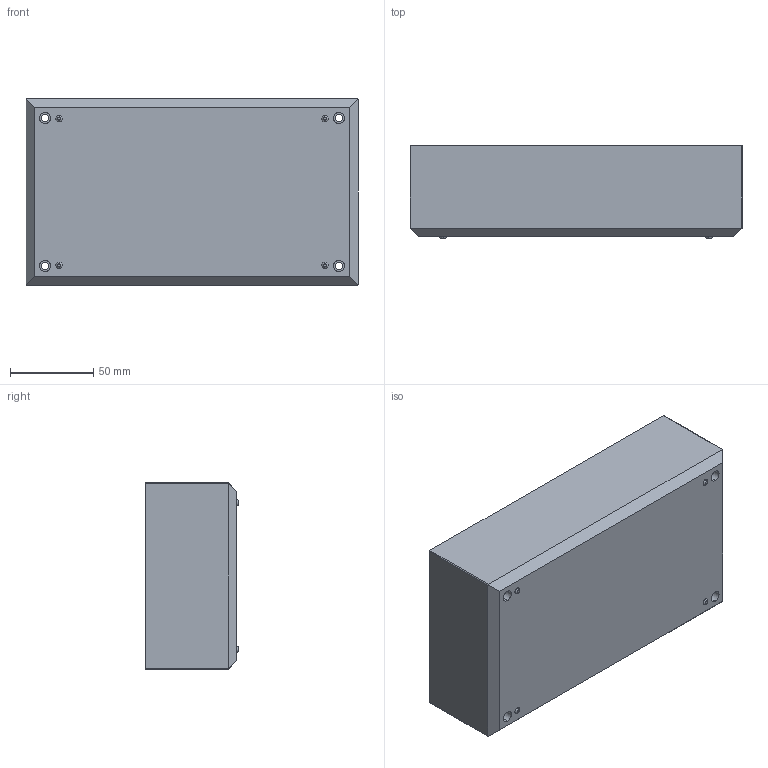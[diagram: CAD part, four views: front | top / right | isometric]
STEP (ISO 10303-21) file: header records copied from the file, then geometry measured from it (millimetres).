
FILE_DESCRIPTION (( 'STEP AP214' ), '1' );
FILE_NAME ('Cuerpo PP63C.STEP', '2017-01-23T03:17:13', ( 'aaa' ), ( '' ), 'SwSTEP 2.0', 'SolidWorks 2013', '' );
FILE_SCHEMA (( 'AUTOMOTIVE_DESIGN' ));
Length unit declared in the file: millimetre
Products named in the file (1): Cuerpo PP63C
Bounding box: 200 x 56 x 112.2 mm (x, y, z)
Volume: 197761.1 mm3; surface area: 120488.5 mm2
Topology: 1 solids, 1 shells, 131 faces, 284 edges, 188 vertices
Faces by surface type: cylinder 64, plane 59, torus 8
Entity records: 3684 total; most frequent: DIRECTION 688, CARTESIAN_POINT 628, ORIENTED_EDGE 568, EDGE_CURVE 284, AXIS2_PLACEMENT_3D 280, VERTEX_POINT 188, EDGE_LOOP 172, CIRCLE 148
